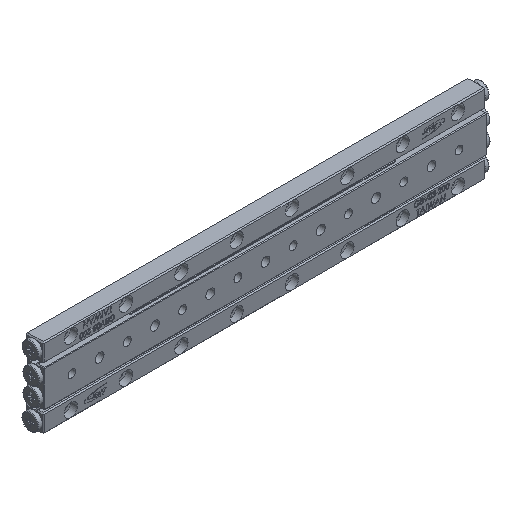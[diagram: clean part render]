
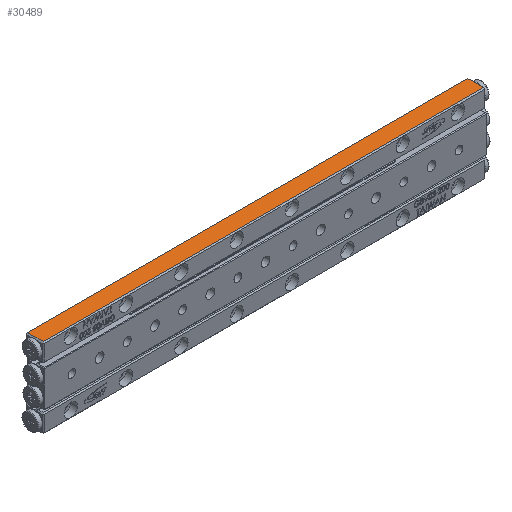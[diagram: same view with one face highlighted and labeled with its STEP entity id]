
A CAD part, isometric view. The second image highlights one B-rep face of the part: STEP entity #30489.
In plain terms, the highlighted planar face has unit normal (0, 0, 1) as drawn and (0, 0, -1) by its records, which use the part's own axes.
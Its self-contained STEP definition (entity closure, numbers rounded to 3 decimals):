
#389 = DIRECTION ( 'NONE',  ( 1., 0., 0. ) ) ;
#447 = VECTOR ( 'NONE', #389, 1000. ) ;
#461 = VERTEX_POINT ( 'NONE', #23000 ) ;
#1591 = EDGE_CURVE ( 'NONE', #13881, #12834, #11584, .T. ) ;
#2152 = LINE ( 'NONE', #20120, #7983 ) ;
#6847 = EDGE_LOOP ( 'NONE', ( #18131, #7779, #26084, #24588 ) ) ;
#6907 = CARTESIAN_POINT ( 'NONE',  ( -99.5, -3.5, 0. ) ) ;
#7779 = ORIENTED_EDGE ( 'NONE', *, *, #1591, .T. ) ;
#7983 = VECTOR ( 'NONE', #25946, 1000. ) ;
#9761 = AXIS2_PLACEMENT_3D ( 'NONE', #12808, #23751, #15903 ) ;
#11356 = LINE ( 'NONE', #26923, #447 ) ;
#11584 = LINE ( 'NONE', #21998, #20630 ) ;
#12808 = CARTESIAN_POINT ( 'NONE',  ( 100., 4., 0. ) ) ;
#12834 = VERTEX_POINT ( 'NONE', #15345 ) ;
#13881 = VERTEX_POINT ( 'NONE', #6907 ) ;
#15345 = CARTESIAN_POINT ( 'NONE',  ( -99.5, 3.5, 0. ) ) ;
#15903 = DIRECTION ( 'NONE',  ( 1., 0., 0. ) ) ;
#17950 = PLANE ( 'NONE',  #9761 ) ;
#18131 = ORIENTED_EDGE ( 'NONE', *, *, #21624, .T. ) ;
#20120 = CARTESIAN_POINT ( 'NONE',  ( 100., -3.5, 0. ) ) ;
#20630 = VECTOR ( 'NONE', #30090, 1000. ) ;
#21139 = LINE ( 'NONE', #26951, #21760 ) ;
#21624 = EDGE_CURVE ( 'NONE', #461, #13881, #2152, .T. ) ;
#21760 = VECTOR ( 'NONE', #31627, 1000. ) ;
#21998 = CARTESIAN_POINT ( 'NONE',  ( -99.5, 4., 0. ) ) ;
#23000 = CARTESIAN_POINT ( 'NONE',  ( 99.5, -3.5, 0. ) ) ;
#23234 = FACE_OUTER_BOUND ( 'NONE', #6847, .T. ) ;
#23751 = DIRECTION ( 'NONE',  ( 0., 0., 1. ) ) ;
#24588 = ORIENTED_EDGE ( 'NONE', *, *, #29940, .T. ) ;
#25440 = VERTEX_POINT ( 'NONE', #26910 ) ;
#25946 = DIRECTION ( 'NONE',  ( -1., 0., 0. ) ) ;
#26084 = ORIENTED_EDGE ( 'NONE', *, *, #31212, .T. ) ;
#26910 = CARTESIAN_POINT ( 'NONE',  ( 99.5, 3.5, 0. ) ) ;
#26923 = CARTESIAN_POINT ( 'NONE',  ( 100., 3.5, 0. ) ) ;
#26951 = CARTESIAN_POINT ( 'NONE',  ( 99.5, -4., 0. ) ) ;
#29940 = EDGE_CURVE ( 'NONE', #25440, #461, #21139, .T. ) ;
#30090 = DIRECTION ( 'NONE',  ( 0., 1., 0. ) ) ;
#30489 = ADVANCED_FACE ( 'NONE', ( #23234 ), #17950, .F. ) ;
#31212 = EDGE_CURVE ( 'NONE', #12834, #25440, #11356, .T. ) ;
#31627 = DIRECTION ( 'NONE',  ( 0., -1., 0. ) ) ;
